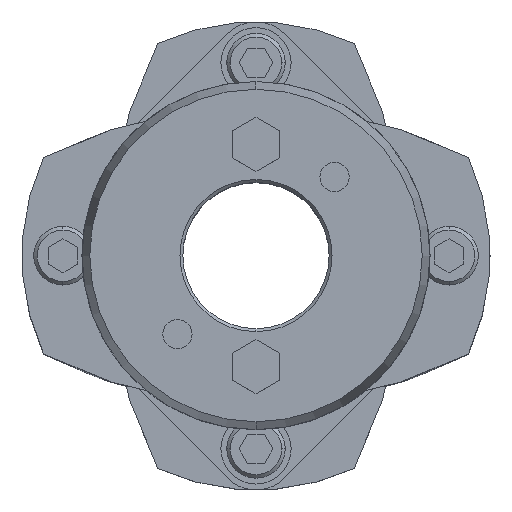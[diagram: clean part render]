
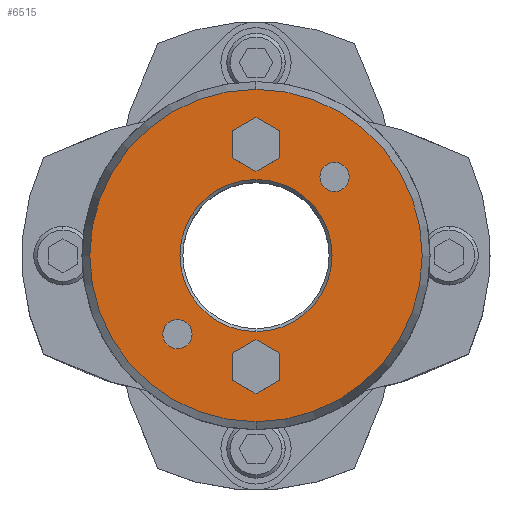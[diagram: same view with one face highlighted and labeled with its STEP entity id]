
A CAD part, top view. The second image highlights one B-rep face of the part: STEP entity #6515.
In plain terms, the highlighted planar face has unit normal (0, 0, 1).
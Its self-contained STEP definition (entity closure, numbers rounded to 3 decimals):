
#1677=CARTESIAN_POINT('',(0.,13.,45.25));
#1678=VERTEX_POINT('',#1677);
#1694=CARTESIAN_POINT('',(0.,-13.,45.25));
#1695=VERTEX_POINT('',#1694);
#1702=CARTESIAN_POINT('',(0.,0.,45.25));
#1703=DIRECTION('',(0.0,0.0,1.0));
#1704=DIRECTION('',(0.,1.0,0.0));
#1705=AXIS2_PLACEMENT_3D('',#1702,#1703,#1704);
#1706=CIRCLE('',#1705,13.0);
#1707=EDGE_CURVE('',#1695,#1678,#1706,.T.);
#1823=CARTESIAN_POINT('',(0.,-28.41,45.25));
#1824=VERTEX_POINT('',#1823);
#1833=CARTESIAN_POINT('',(0.,28.41,45.25));
#1834=VERTEX_POINT('',#1833);
#1835=CARTESIAN_POINT('',(0.,0.,45.25));
#1836=DIRECTION('',(0.0,0.0,-1.0));
#1837=DIRECTION('',(0.,-1.0,0.0));
#1838=AXIS2_PLACEMENT_3D('',#1835,#1836,#1837);
#1839=CIRCLE('',#1838,28.41);
#1840=EDGE_CURVE('',#1824,#1834,#1839,.T.);
#2009=CARTESIAN_POINT('',(13.435,15.935,45.25));
#2010=VERTEX_POINT('',#2009);
#2026=CARTESIAN_POINT('',(13.435,10.935,45.25));
#2027=VERTEX_POINT('',#2026);
#2034=CARTESIAN_POINT('',(13.435,13.435,45.25));
#2035=DIRECTION('',(0.0,0.0,-1.0));
#2036=DIRECTION('',(0.,1.0,0.0));
#2037=AXIS2_PLACEMENT_3D('',#2034,#2035,#2036);
#2038=CIRCLE('',#2037,2.5);
#2039=EDGE_CURVE('',#2010,#2027,#2038,.T.);
#2051=CARTESIAN_POINT('',(-13.435,-10.935,45.25));
#2052=VERTEX_POINT('',#2051);
#2068=CARTESIAN_POINT('',(-13.435,-15.935,45.25));
#2069=VERTEX_POINT('',#2068);
#2076=CARTESIAN_POINT('',(-13.435,-13.435,45.25));
#2077=DIRECTION('',(0.0,0.0,-1.0));
#2078=DIRECTION('',(0.,1.0,0.0));
#2079=AXIS2_PLACEMENT_3D('',#2076,#2077,#2078);
#2080=CIRCLE('',#2079,2.5);
#2081=EDGE_CURVE('',#2052,#2069,#2080,.T.);
#5641=CARTESIAN_POINT('',(0.,-14.381,45.25));
#5642=VERTEX_POINT('',#5641);
#5649=CARTESIAN_POINT('',(-4.,-16.691,45.25));
#5650=VERTEX_POINT('',#5649);
#5651=CARTESIAN_POINT('',(-4.,-16.691,45.25));
#5652=DIRECTION('',(0.866,0.5,0.0));
#5653=VECTOR('',#5652,4.619);
#5654=LINE('',#5651,#5653);
#5655=EDGE_CURVE('',#5650,#5642,#5654,.T.);
#5679=CARTESIAN_POINT('',(4.,-16.691,45.25));
#5680=VERTEX_POINT('',#5679);
#5687=CARTESIAN_POINT('',(0.,-14.381,45.25));
#5688=DIRECTION('',(0.866,-0.5,0.0));
#5689=VECTOR('',#5688,4.619);
#5690=LINE('',#5687,#5689);
#5691=EDGE_CURVE('',#5642,#5680,#5690,.T.);
#5710=CARTESIAN_POINT('',(4.,-21.309,45.25));
#5711=VERTEX_POINT('',#5710);
#5718=CARTESIAN_POINT('',(4.,-16.691,45.25));
#5719=DIRECTION('',(0.,-1.0,0.0));
#5720=VECTOR('',#5719,4.619);
#5721=LINE('',#5718,#5720);
#5722=EDGE_CURVE('',#5680,#5711,#5721,.T.);
#5741=CARTESIAN_POINT('',(0.,-23.619,45.25));
#5742=VERTEX_POINT('',#5741);
#5749=CARTESIAN_POINT('',(4.,-21.309,45.25));
#5750=DIRECTION('',(-0.866,-0.5,0.0));
#5751=VECTOR('',#5750,4.619);
#5752=LINE('',#5749,#5751);
#5753=EDGE_CURVE('',#5711,#5742,#5752,.T.);
#5772=CARTESIAN_POINT('',(-4.,-21.309,45.25));
#5773=VERTEX_POINT('',#5772);
#5780=CARTESIAN_POINT('',(0.,-23.619,45.25));
#5781=DIRECTION('',(-0.866,0.5,0.0));
#5782=VECTOR('',#5781,4.619);
#5783=LINE('',#5780,#5782);
#5784=EDGE_CURVE('',#5742,#5773,#5783,.T.);
#5802=CARTESIAN_POINT('',(-4.,-21.309,45.25));
#5803=DIRECTION('',(0.,1.0,0.0));
#5804=VECTOR('',#5803,4.619);
#5805=LINE('',#5802,#5804);
#5806=EDGE_CURVE('',#5773,#5650,#5805,.T.);
#5841=CARTESIAN_POINT('',(0.,23.619,45.25));
#5842=VERTEX_POINT('',#5841);
#5849=CARTESIAN_POINT('',(-4.,21.309,45.25));
#5850=VERTEX_POINT('',#5849);
#5851=CARTESIAN_POINT('',(-4.,21.309,45.25));
#5852=DIRECTION('',(0.866,0.5,0.0));
#5853=VECTOR('',#5852,4.619);
#5854=LINE('',#5851,#5853);
#5855=EDGE_CURVE('',#5850,#5842,#5854,.T.);
#5879=CARTESIAN_POINT('',(4.,21.309,45.25));
#5880=VERTEX_POINT('',#5879);
#5887=CARTESIAN_POINT('',(0.,23.619,45.25));
#5888=DIRECTION('',(0.866,-0.5,0.0));
#5889=VECTOR('',#5888,4.619);
#5890=LINE('',#5887,#5889);
#5891=EDGE_CURVE('',#5842,#5880,#5890,.T.);
#5910=CARTESIAN_POINT('',(4.,16.691,45.25));
#5911=VERTEX_POINT('',#5910);
#5918=CARTESIAN_POINT('',(4.,21.309,45.25));
#5919=DIRECTION('',(0.,-1.0,0.0));
#5920=VECTOR('',#5919,4.619);
#5921=LINE('',#5918,#5920);
#5922=EDGE_CURVE('',#5880,#5911,#5921,.T.);
#5941=CARTESIAN_POINT('',(0.,14.381,45.25));
#5942=VERTEX_POINT('',#5941);
#5949=CARTESIAN_POINT('',(4.,16.691,45.25));
#5950=DIRECTION('',(-0.866,-0.5,0.0));
#5951=VECTOR('',#5950,4.619);
#5952=LINE('',#5949,#5951);
#5953=EDGE_CURVE('',#5911,#5942,#5952,.T.);
#5972=CARTESIAN_POINT('',(-4.,16.691,45.25));
#5973=VERTEX_POINT('',#5972);
#5980=CARTESIAN_POINT('',(0.,14.381,45.25));
#5981=DIRECTION('',(-0.866,0.5,0.0));
#5982=VECTOR('',#5981,4.619);
#5983=LINE('',#5980,#5982);
#5984=EDGE_CURVE('',#5942,#5973,#5983,.T.);
#6002=CARTESIAN_POINT('',(-4.,16.691,45.25));
#6003=DIRECTION('',(0.,1.0,0.0));
#6004=VECTOR('',#6003,4.619);
#6005=LINE('',#6002,#6004);
#6006=EDGE_CURVE('',#5973,#5850,#6005,.T.);
#6032=CARTESIAN_POINT('',(-13.435,-13.435,45.25));
#6033=DIRECTION('',(0.0,0.0,-1.0));
#6034=DIRECTION('',(0.,1.0,0.0));
#6035=AXIS2_PLACEMENT_3D('',#6032,#6033,#6034);
#6036=CIRCLE('',#6035,2.5);
#6037=EDGE_CURVE('',#2069,#2052,#6036,.T.);
#6066=CARTESIAN_POINT('',(13.435,13.435,45.25));
#6067=DIRECTION('',(0.0,0.0,-1.0));
#6068=DIRECTION('',(0.,1.0,0.0));
#6069=AXIS2_PLACEMENT_3D('',#6066,#6067,#6068);
#6070=CIRCLE('',#6069,2.5);
#6071=EDGE_CURVE('',#2027,#2010,#6070,.T.);
#6462=CARTESIAN_POINT('',(0.,0.,45.25));
#6463=DIRECTION('',(0.0,0.0,-1.0));
#6464=DIRECTION('',(0.,-1.0,0.0));
#6465=AXIS2_PLACEMENT_3D('',#6462,#6463,#6464);
#6466=CIRCLE('',#6465,28.41);
#6467=EDGE_CURVE('',#1834,#1824,#6466,.T.);
#6472=CARTESIAN_POINT('',(0.,2.364,45.25));
#6473=DIRECTION('',(0.0,0.0,1.0));
#6474=DIRECTION('',(0.,1.0,0.0));
#6475=AXIS2_PLACEMENT_3D('',#6472,#6473,#6474);
#6476=PLANE('',#6475);
#6477=ORIENTED_EDGE('',*,*,#6467,.F.);
#6478=ORIENTED_EDGE('',*,*,#1840,.F.);
#6479=EDGE_LOOP('',(#6477,#6478));
#6480=FACE_OUTER_BOUND('',#6479,.T.);
#6481=ORIENTED_EDGE('',*,*,#5655,.T.);
#6482=ORIENTED_EDGE('',*,*,#5691,.T.);
#6483=ORIENTED_EDGE('',*,*,#5722,.T.);
#6484=ORIENTED_EDGE('',*,*,#5753,.T.);
#6485=ORIENTED_EDGE('',*,*,#5784,.T.);
#6486=ORIENTED_EDGE('',*,*,#5806,.T.);
#6487=EDGE_LOOP('',(#6481,#6482,#6483,#6484,#6485,#6486));
#6488=FACE_BOUND('',#6487,.T.);
#6489=ORIENTED_EDGE('',*,*,#5855,.T.);
#6490=ORIENTED_EDGE('',*,*,#5891,.T.);
#6491=ORIENTED_EDGE('',*,*,#5922,.T.);
#6492=ORIENTED_EDGE('',*,*,#5953,.T.);
#6493=ORIENTED_EDGE('',*,*,#5984,.T.);
#6494=ORIENTED_EDGE('',*,*,#6006,.T.);
#6495=EDGE_LOOP('',(#6489,#6490,#6491,#6492,#6493,#6494));
#6496=FACE_BOUND('',#6495,.T.);
#6497=ORIENTED_EDGE('',*,*,#2081,.T.);
#6498=ORIENTED_EDGE('',*,*,#6037,.T.);
#6499=EDGE_LOOP('',(#6497,#6498));
#6500=FACE_BOUND('',#6499,.T.);
#6501=ORIENTED_EDGE('',*,*,#2039,.T.);
#6502=ORIENTED_EDGE('',*,*,#6071,.T.);
#6503=EDGE_LOOP('',(#6501,#6502));
#6504=FACE_BOUND('',#6503,.T.);
#6505=ORIENTED_EDGE('',*,*,#1707,.F.);
#6506=CARTESIAN_POINT('',(0.,0.,45.25));
#6507=DIRECTION('',(0.0,0.0,1.0));
#6508=DIRECTION('',(0.,1.0,0.0));
#6509=AXIS2_PLACEMENT_3D('',#6506,#6507,#6508);
#6510=CIRCLE('',#6509,13.0);
#6511=EDGE_CURVE('',#1678,#1695,#6510,.T.);
#6512=ORIENTED_EDGE('',*,*,#6511,.F.);
#6513=EDGE_LOOP('',(#6505,#6512));
#6514=FACE_BOUND('',#6513,.T.);
#6515=ADVANCED_FACE('',(#6480,#6488,#6496,#6500,#6504,#6514),#6476,.T.);
